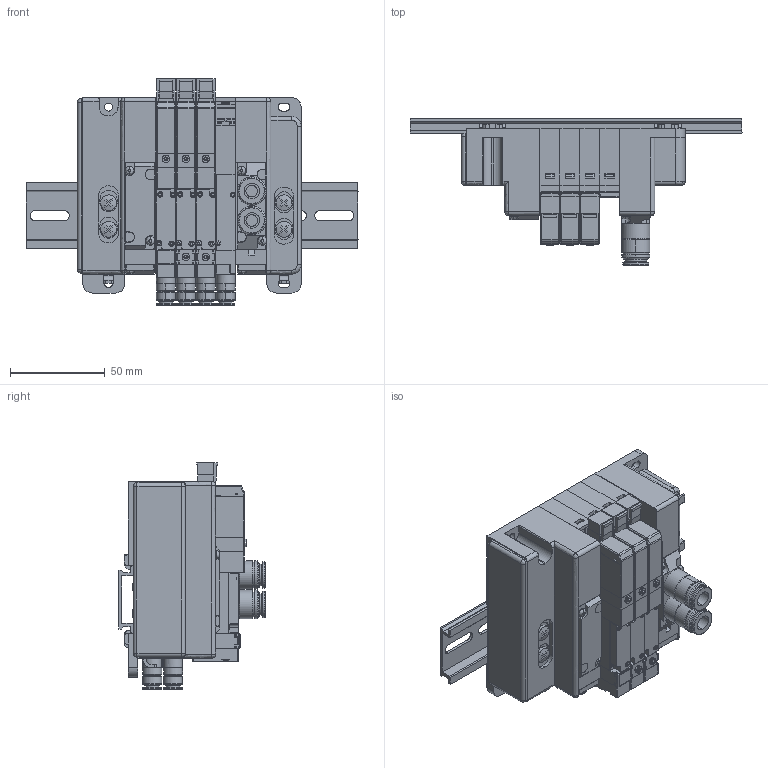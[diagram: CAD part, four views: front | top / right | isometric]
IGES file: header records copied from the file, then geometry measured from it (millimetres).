
Start section: ------------------------------------------------------------------------
Global section: file name: D:\ICADMX\tmp\trans3d_spg\CVICAD02.2536.F10M4XNJ-JR-DN_14284.igs; native system: spGate; preprocessor: ver12.6.6; author: Unknown; organization: Unknown; date: 200901.145356; units: millimetre
Bounding box: 175 x 77 x 119.5 mm (x, y, z)
Volume: 473204.1 mm3; surface area: 158859.1 mm2
Topology: 38 solids, 38 shells, 3747 faces, 10086 edges, 6987 vertices
Faces by surface type: bspline 3747
